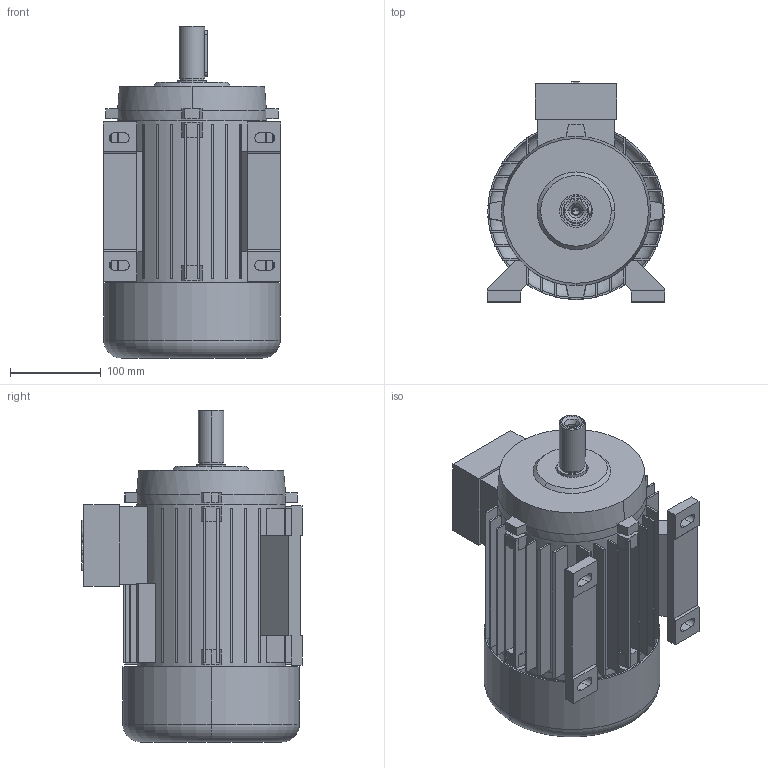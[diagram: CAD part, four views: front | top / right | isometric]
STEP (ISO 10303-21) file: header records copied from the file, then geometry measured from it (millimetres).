
FILE_DESCRIPTION (( 'STEP AP203' ), '1' );
FILE_NAME ('5AZ 100 B3 STANDK.STEP', '2017-11-10T10:39:20', ( '' ), ( '' ), 'SwSTEP 2.0', 'SolidWorks 2017', '' );
FILE_SCHEMA (( 'CONFIG_CONTROL_DESIGN' ));
Length unit declared in the file: millimetre
Products named in the file (1): 5AZ 100 B3 STANDK
Bounding box: 195 x 242 x 365 mm (x, y, z)
Volume: 2577620 mm3; surface area: 781018 mm2
Topology: 7 solids, 7 shells, 492 faces, 1283 edges, 845 vertices
Faces by surface type: plane 340, cylinder 117, cone 22, bspline 9, torus 4
Entity records: 15293 total; most frequent: CARTESIAN_POINT 2852, DIRECTION 2599, ORIENTED_EDGE 2562, EDGE_CURVE 1281, AXIS2_PLACEMENT_3D 872, LINE 855, VECTOR 855, VERTEX_POINT 845
